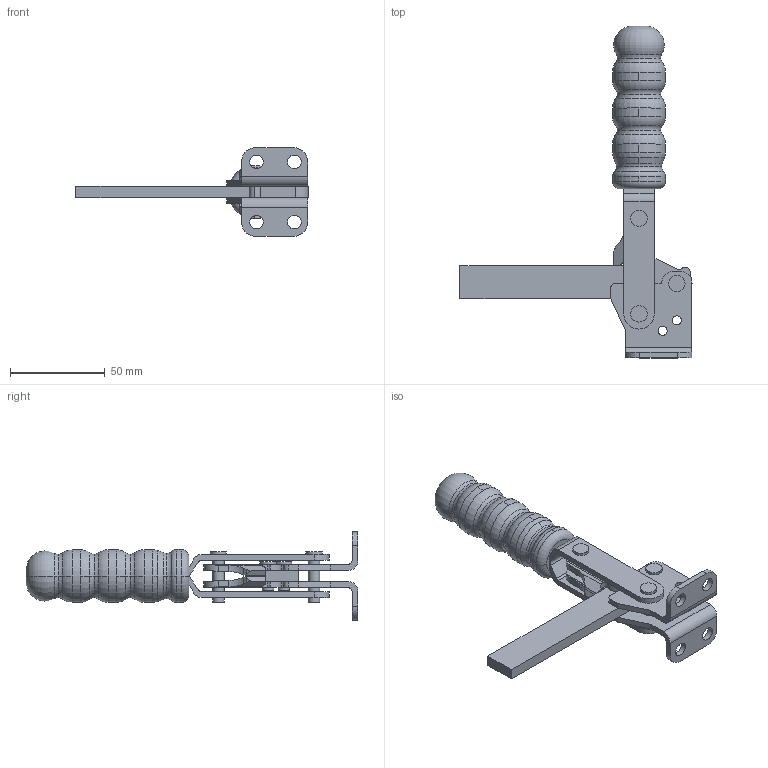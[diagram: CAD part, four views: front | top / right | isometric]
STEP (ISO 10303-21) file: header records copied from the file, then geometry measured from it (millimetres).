
FILE_DESCRIPTION( ( '' ), '1' );
FILE_NAME( '//partserver002.servicenet/client_exchange/iodir/jobs/output/wkb5782585_no1/STEP/v250_2al_2_14a.stp', '2006-11-29T10:32:48', ( '' ), ( '' ), ' ', ' ', ' ' );
FILE_SCHEMA( ( 'automotive_design' ) );
Length unit declared in the file: millimetre
Products named in the file (5): 1; 2; 3; 4; 5
Bounding box: 122.5 x 175.2 x 46.8 mm (x, y, z)
Volume: 83066.9 mm3; surface area: 34164.8 mm2
Topology: 5 solids, 5 shells, 220 faces, 587 edges, 389 vertices
Faces by surface type: cylinder 112, plane 70, torus 34, cone 4
Entity records: 13918 total; most frequent: DIRECTION 1340, CARTESIAN_POINT 1313, STYLED_ITEM 1201, PRESENTATION_STYLE_ASSIGNMENT 1201, COLOUR_RGB 1201, ORIENTED_EDGE 1174, EDGE_CURVE 587, CURVE_STYLE 587
